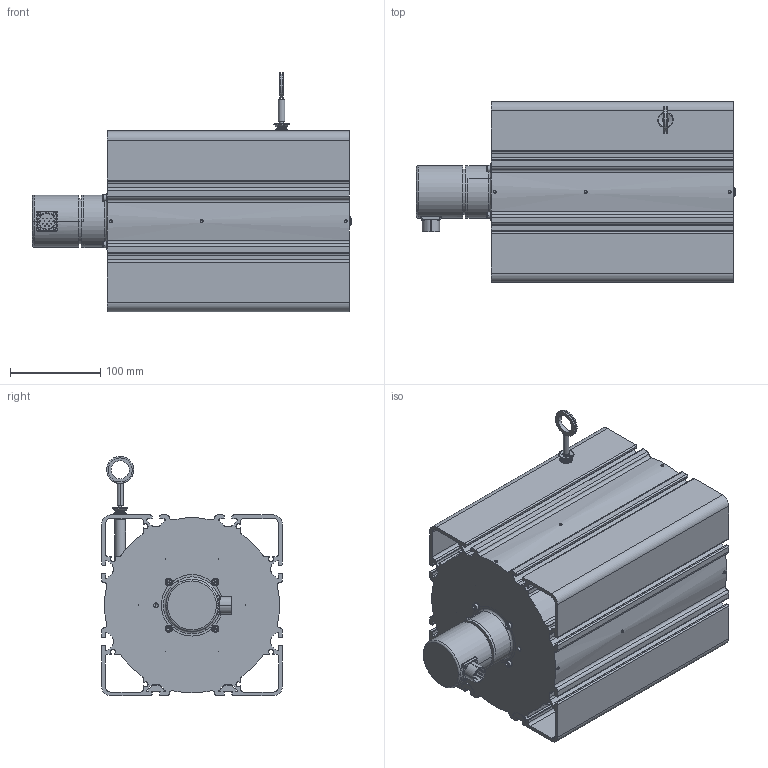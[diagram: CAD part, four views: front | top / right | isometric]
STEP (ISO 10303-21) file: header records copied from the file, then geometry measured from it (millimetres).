
FILE_DESCRIPTION((''),'2;1');
FILE_NAME('','2007-05-29T',(''),(''),'PRO/ENGINEER BY PARAMETRIC TECHNOLOGY CORPORATION, 2003250','PRO/ENGINEER BY PARAMETRIC TECHNOLOGY CORPORATION, 2003250','');
FILE_SCHEMA(('CONFIG_CONTROL_DESIGN'));
Length unit declared in the file: millimetre
Bounding box: 353.17 x 200 x 264.95 mm (x, y, z)
Volume: 2029460.9 mm3; surface area: 792331.2 mm2
Topology: 1 solids, 6 shells, 919 faces, 2426 edges, 1572 vertices
Faces by surface type: cylinder 434, plane 331, cone 102, torus 46, bspline 4, sphere 2
Entity records: 30025 total; most frequent: CARTESIAN_POINT 6644, DIRECTION 5114, ORIENTED_EDGE 4784, EDGE_CURVE 2392, AXIS2_PLACEMENT_3D 1985, VERTEX_POINT 1572, VECTOR 1144, LINE 1144
